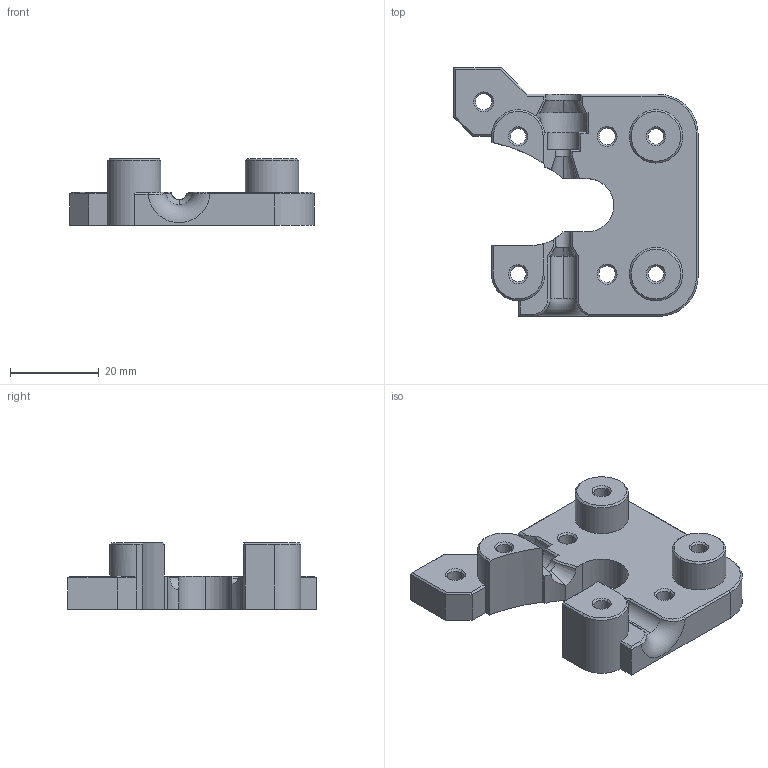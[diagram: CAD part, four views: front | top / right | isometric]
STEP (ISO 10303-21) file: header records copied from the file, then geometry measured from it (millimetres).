
FILE_DESCRIPTION (( 'STEP AP214' ), '1' );
FILE_NAME ('um2feeder_main_back.STEP', '2014-10-26T06:42:16', ( 'Frank' ), ( '' ), 'SwSTEP 2.0', 'SolidWorks 2013', '' );
FILE_SCHEMA (( 'AUTOMOTIVE_DESIGN' ));
Length unit declared in the file: millimetre
Products named in the file (1): um2feeder_main_back
Bounding box: 55 x 56 x 15 mm (x, y, z)
Volume: 16145.5 mm3; surface area: 7994.1 mm2
Topology: 1 solids, 1 shells, 147 faces, 383 edges, 243 vertices
Faces by surface type: plane 77, cylinder 34, cone 29, bspline 6, torus 1
Entity records: 5177 total; most frequent: CARTESIAN_POINT 1559, ORIENTED_EDGE 766, DIRECTION 715, EDGE_CURVE 383, VERTEX_POINT 243, AXIS2_PLACEMENT_3D 242, VECTOR 231, LINE 231
